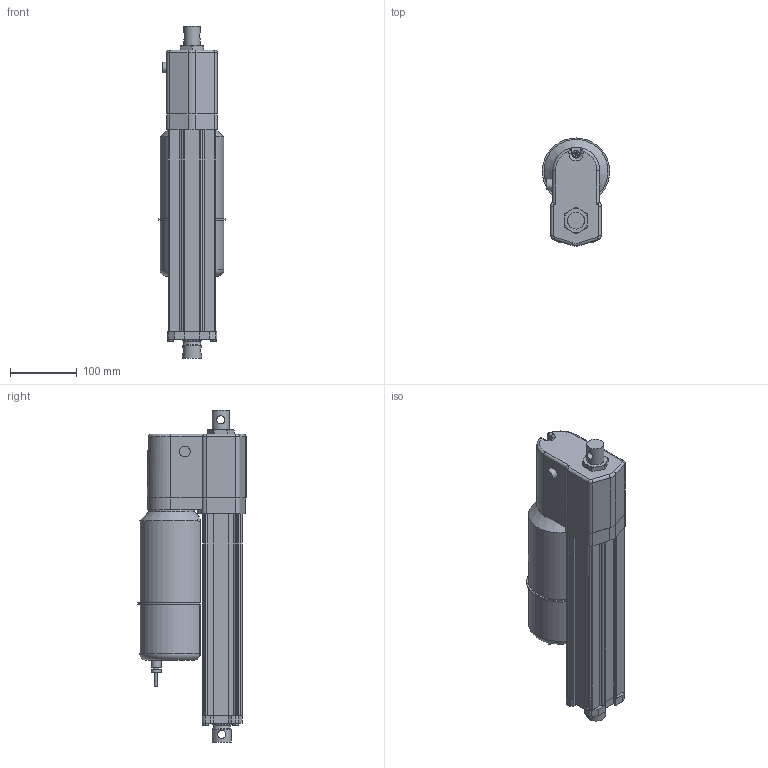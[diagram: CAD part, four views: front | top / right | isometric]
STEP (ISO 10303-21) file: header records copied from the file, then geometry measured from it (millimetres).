
FILE_DESCRIPTION (( 'STEP AP214' ), '1' );
FILE_NAME ('AA22-05A65M-25M0NPO-tollo.step', '2020-04-13T18:59:39', ( '' ), ( '' ), 'SwSTEP 2.0', 'SolidWorks 2010', '' );
FILE_SCHEMA (( 'AUTOMOTIVE_DESIGN' ));
Length unit declared in the file: millimetre
Products named in the file (8): Electrak-LA24-Motor-AA22-05A65M-25M0NPO-tollo_Electrak-LA24-Motor-AA22-05A65M-25M0NPO-tollo; Electrak-LA24-Rear-AA22-05A65M-25M0NPO-tollo_Electrak-LA24-Rear-AA22-05A65M-25M0NPO-tollo; Electrak-LA24-Tube-AA22-05A65M-25M0NPO-tollo_Electrak-LA24-Tube-AA22-05A65M-25M0NPO-tollo; Electrak-LA24-Rod-AA22-05A65M-25M0NPO-tollo_Electrak-LA24-Rod-AA22-05A65M-25M0NPO-tollo; Electrak-LA24-Plate-AA22-05A65M-25M0NPO-tollo_Electrak-LA24-Plate-AA22-05A65M-25M0NPO-tollo; Screw-MFX-H-M5_Screw-MFX-H-M5x24H; Screw-M6S-M5-AA22-05A65M-25M0NPO-tollo_Screw-M6S-M5-AA22-05A65M-25M0NPO-tollo; AA22-05A65M-25M0NPO-tollo
Assembly tree (10 placements, depth 2):
  AA22-05A65M-25M0NPO-tollo
    Electrak-LA24-Tube-AA22-05A65M-25M0NPO-tollo_Electrak-LA24-Tube-AA22-05A65M-25M0NPO-tollo
    Screw-M6S-M5-AA22-05A65M-25M0NPO-tollo_Screw-M6S-M5-AA22-05A65M-25M0NPO-tollo  x4
    Electrak-LA24-Rear-AA22-05A65M-25M0NPO-tollo_Electrak-LA24-Rear-AA22-05A65M-25M0NPO-tollo
    Screw-MFX-H-M5_Screw-MFX-H-M5x24H
    Electrak-LA24-Plate-AA22-05A65M-25M0NPO-tollo_Electrak-LA24-Plate-AA22-05A65M-25M0NPO-tollo
    Electrak-LA24-Rod-AA22-05A65M-25M0NPO-tollo_Electrak-LA24-Rod-AA22-05A65M-25M0NPO-tollo
    Electrak-LA24-Motor-AA22-05A65M-25M0NPO-tollo_Electrak-LA24-Motor-AA22-05A65M-25M0NPO-tollo
Bounding box: 100.99 x 162.5 x 497.8 mm (x, y, z)
Volume: 3238755.8 mm3; surface area: 381269.9 mm2
Topology: 10 solids, 10 shells, 355 faces, 890 edges, 575 vertices
Faces by surface type: plane 175, cylinder 129, cone 31, torus 15, bspline 3, sphere 2
Full cylindrical faces by diameter (mm): 4 x1, 4.126 x5, 4.8 x6, 5 x5, 5.6 x4, 7.878 x4, 9.3 x1, 10 x1, 12.2 x2, 15 x2, 16 x1, 25.4 x1, 28.6 x4, 47.625 x1, 68 x1
Entity records: 9673 total; most frequent: CARTESIAN_POINT 2403, DIRECTION 1454, ORIENTED_EDGE 1342, EDGE_CURVE 671, AXIS2_PLACEMENT_3D 531, VERTEX_POINT 462, LINE 392, VECTOR 392
